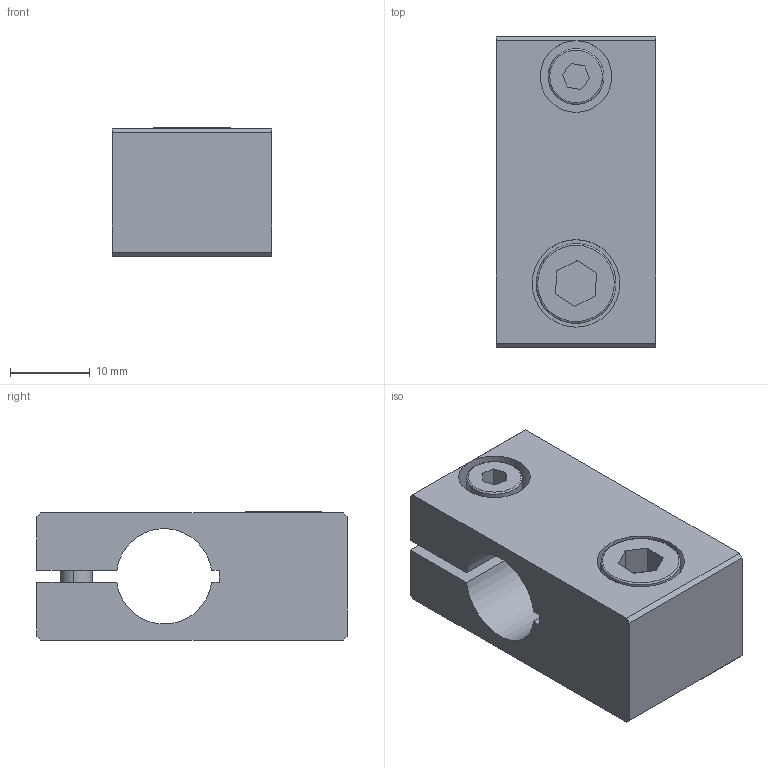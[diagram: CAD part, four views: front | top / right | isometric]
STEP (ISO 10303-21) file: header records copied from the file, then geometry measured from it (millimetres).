
FILE_DESCRIPTION (( 'STEP AP214' ), '1' );
FILE_NAME ('SMBH1-12M6.STEP', '2019-11-07T07:28:29', ( '微软用户' ), ( '微软中国' ), 'SwSTEP 2.0', 'SolidWorks 2016', '' );
FILE_SCHEMA (( 'AUTOMOTIVE_DESIGN' ));
Length unit declared in the file: millimetre
Products named in the file (1): SMBH1-12M6
Bounding box: 20 x 39 x 16.1 mm (x, y, z)
Volume: 9459.2 mm3; surface area: 5974 mm2
Topology: 5 solids, 5 shells, 412 faces, 1188 edges, 787 vertices
Faces by surface type: plane 374, cylinder 28, cone 6, bspline 4
Entity records: 18356 total; most frequent: CARTESIAN_POINT 2554, DIRECTION 2393, ORIENTED_EDGE 2376, EDGE_CURVE 1188, AXIS2_PLACEMENT_3D 804, VERTEX_POINT 787, LINE 785, VECTOR 785
